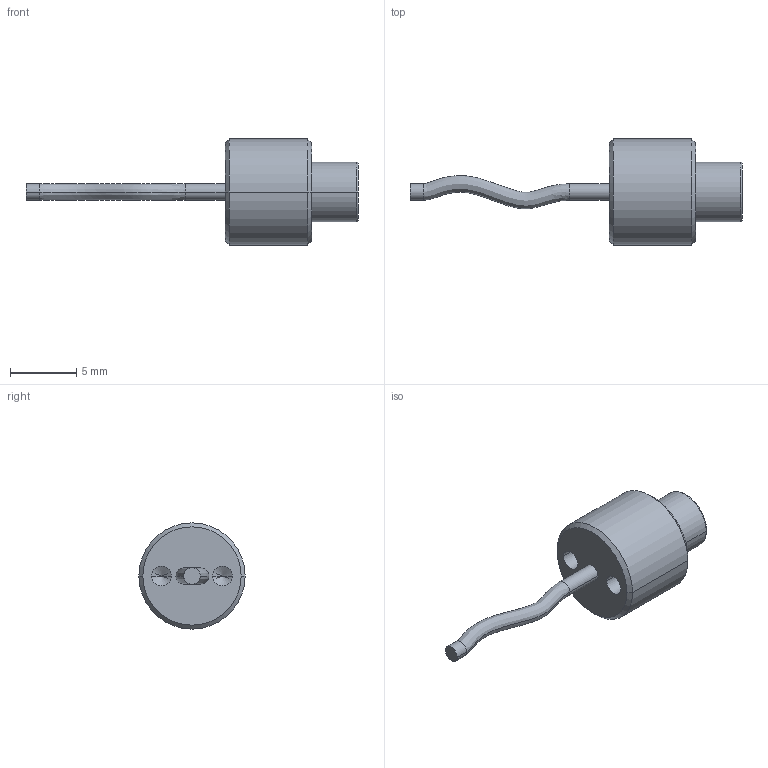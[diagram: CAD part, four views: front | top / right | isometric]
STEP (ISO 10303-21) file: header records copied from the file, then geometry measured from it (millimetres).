
FILE_DESCRIPTION((''),'2;1');
FILE_NAME('0000088531','2015-05-22T',('11000065'),(''),'PRO/ENGINEER BY PARAMETRIC TECHNOLOGY CORPORATION, 2013230','PRO/ENGINEER BY PARAMETRIC TECHNOLOGY CORPORATION, 2013230','');
FILE_SCHEMA(('AUTOMOTIVE_DESIGN { 1 0 10303 214 1 1 1 1 }'));
Length unit declared in the file: millimetre
Products named in the file (1): 0000088531
Bounding box: 25 x 8 x 8 mm (x, y, z)
Volume: 393.2 mm3; surface area: 378.7 mm2
Topology: 1 solids, 1 shells, 28 faces, 58 edges, 32 vertices
Faces by surface type: cylinder 12, cone 8, plane 4, torus 2, bspline 2
Entity records: 1443 total; most frequent: CARTESIAN_POINT 600, DIRECTION 136, ORIENTED_EDGE 108, AXIS2_PLACEMENT_3D 58, PRESENTATION_STYLE_ASSIGNMENT 55, STYLED_ITEM 55, CURVE_STYLE 54, EDGE_CURVE 54
